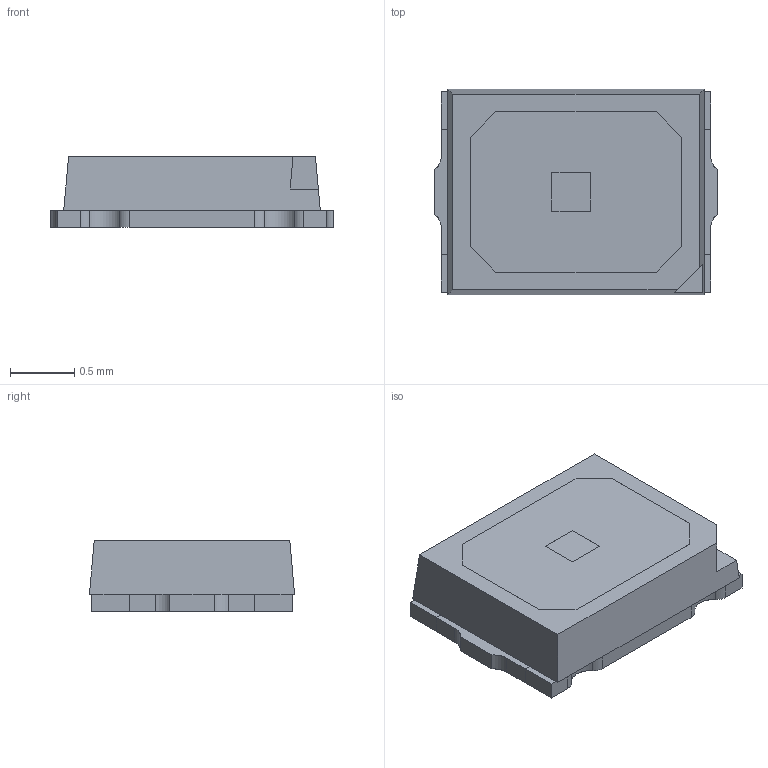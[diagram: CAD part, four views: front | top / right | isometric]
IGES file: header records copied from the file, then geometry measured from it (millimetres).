
Start section: SolidWorks IGES file using analytic representation for surfaces
Global section: file name: C:\Users\user\Desktop\XYY\1-车灯产品3D图汇总\2016\0.2W\D\光学模型\LDP.IGS; native system: SolidWorks 2022; preprocessor: SolidWorks 2022; author: user; date: 250322.174417; units: millimetre
Bounding box: 2.2 x 1.6 x 0.55 mm (x, y, z)
Surface area: 19 mm2 (no closed solid volume)
Topology: 0 solids, 0 shells, 144 faces, 1318 edges, 1720 vertices
Faces by surface type: bspline 96, revolution 48
